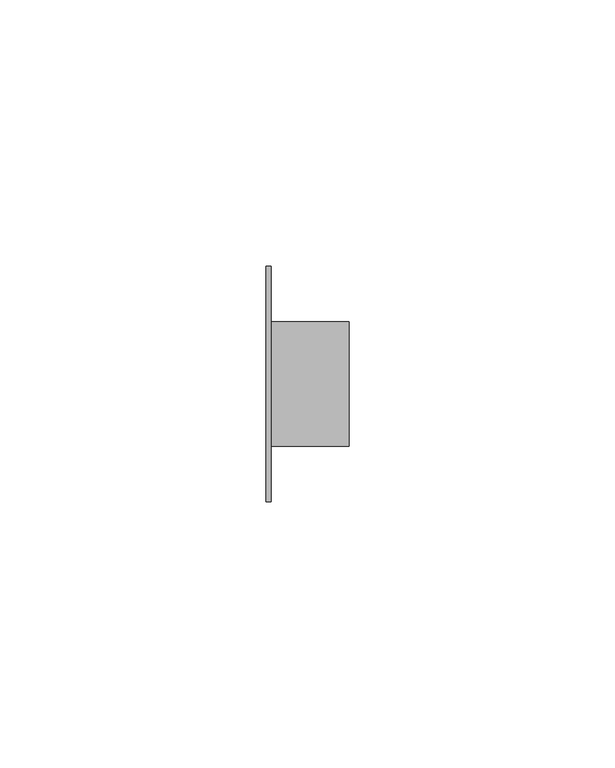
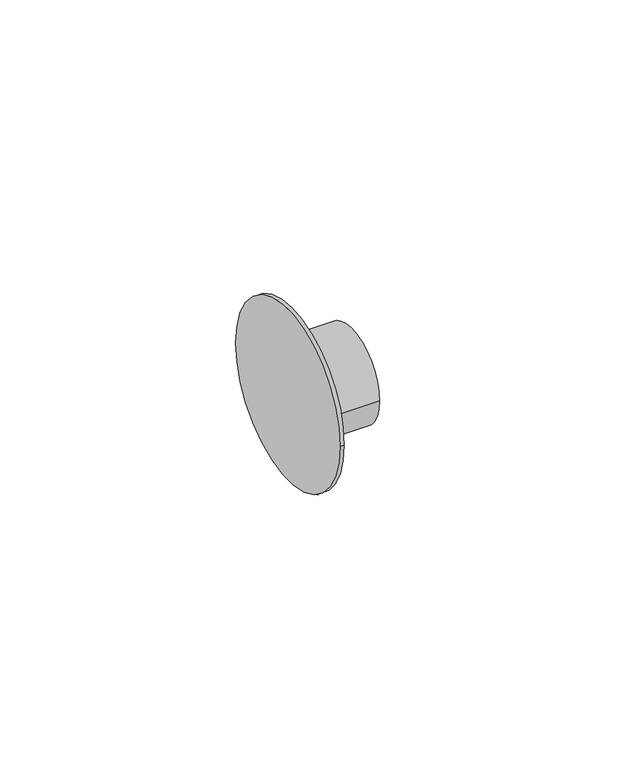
"""IFC4 building model written with IfcOpenShell, lengths in millimetres: pipe fitting geometry, Bucha de redução reta - Soldada - CU : Padrão."""

from ifc_helpers import new_model, si_unit, frame, origin, place, context, project, spatial, circle_curve, source, transform, mapped, element, save
from ifc_brep_helpers import plane_surface, cylinder_surface, advanced_brep


def pipe_fitting_7275ed05(model_context):
    return source(origin(), model_context, "Body", "AdvancedBrep", [
        advanced_brep(
        [(0.0, -22.15, 0.0), (0.0, 22.15, 0.0), (1.0, -22.15, 0.0), (1.0, 22.15, 0.0), (1.0, -11.7322, 0.0), (1.0, 11.7322, 0.0), (15.6434, -11.7322, 0.0), (15.6434, 11.7322, 0.0)],
        [
            (0, 1, circle_curve(frame((0.0, 0.0, 0.0), z_axis=(-1.0, 0.0, 0.0), x_axis=(0.0, 1.0, 0.0)), 22.15)),
            (1, 0, circle_curve(frame((0.0, 0.0, 0.0), z_axis=(-1.0, 0.0, 0.0), x_axis=(0.0, 1.0, 0.0)), 22.15)),
            (2, 3, circle_curve(frame((1.0, 0.0, 0.0), z_axis=(1.0, 0.0, 0.0), x_axis=(0.0, 1.0, 0.0)), 22.15)),
            (3, 2, circle_curve(frame((1.0, 0.0, 0.0), z_axis=(1.0, 0.0, 0.0), x_axis=(0.0, 1.0, 0.0)), 22.15)),
            (4, 5, circle_curve(frame((1.0, 0.0, 0.0), z_axis=(-1.0, 0.0, 0.0), x_axis=(0.0, 1.0, 0.0)), 11.7322)),
            (5, 4, circle_curve(frame((1.0, 0.0, 0.0), z_axis=(-1.0, 0.0, 0.0), x_axis=(0.0, 1.0, 0.0)), 11.7322)),
            (0, 2),
            (3, 1),
            (6, 7, circle_curve(frame((15.6434, 0.0, 0.0), z_axis=(1.0, 0.0, 0.0), x_axis=(0.0, 1.0, 0.0)), 11.7322)),
            (7, 6, circle_curve(frame((15.6434, 0.0, 0.0), z_axis=(1.0, 0.0, 0.0), x_axis=(0.0, 1.0, 0.0)), 11.7322)),
            (7, 5),
            (4, 6),
        ],
        [
            plane_surface(frame((0.0, 0.0, 0.0), z_axis=(-1.0, 0.0, 0.0), x_axis=(0.0, 0.0, 1.0))),
            plane_surface(frame((1.0, 0.0, 0.0), z_axis=(1.0, 0.0, 0.0), x_axis=(0.0, 0.0, 1.0))),
            cylinder_surface(frame((0.0, 0.0, 0.0), z_axis=(-1.0, 0.0, 0.0), x_axis=(0.0, 1.0, 0.0)), 22.15),
            plane_surface(frame((15.6434, 0.0, 0.0), z_axis=(1.0, 0.0, 0.0), x_axis=(0.0, 0.0, 1.0))),
            cylinder_surface(frame((1.0, 0.0, 0.0), z_axis=(-1.0, 0.0, 0.0), x_axis=(0.0, 1.0, 0.0)), 11.7322),
        ],
        [
            (0, [[1, 2]]),
            (1, [[3, 4], [5, 6]]),
            (2, [[-1, 7, -4, 8]]),
            (2, [[-2, -8, -3, -7]]),
            (3, [[9, 10]]),
            (4, [[-10, 11, -5, 12]]),
            (4, [[-9, -12, -6, -11]]),
        ],
    ),
    ])


if __name__ == "__main__":
    model = new_model("IFC4")
    model_context = context("Model", 3, world=origin())
    ifc_project = project(units=[si_unit("LENGTHUNIT", "METRE", prefix="MILLI")], contexts=[model_context])
    site = spatial("IfcSite", under=ifc_project)
    building = spatial("IfcBuilding", under=site)
    placement = place(None, origin())
    pipe_fitting_shape = pipe_fitting_7275ed05(model_context)
    element("IfcPipeFitting", 1, ObjectType="Bucha de redução reta - Soldada - CU : Padrão", at=placement, inside=building, context=model_context, shape_type="MappedRepresentation", body=[
        mapped(pipe_fitting_shape, transform((0.0, 0.0, 0.0), x_axis=(1.0, 0.0, 0.0), y_axis=(0.0, 1.0, 0.0), z_axis=(0.0, 0.0, 1.0))),
    ])
    save(model, "model.ifc")
